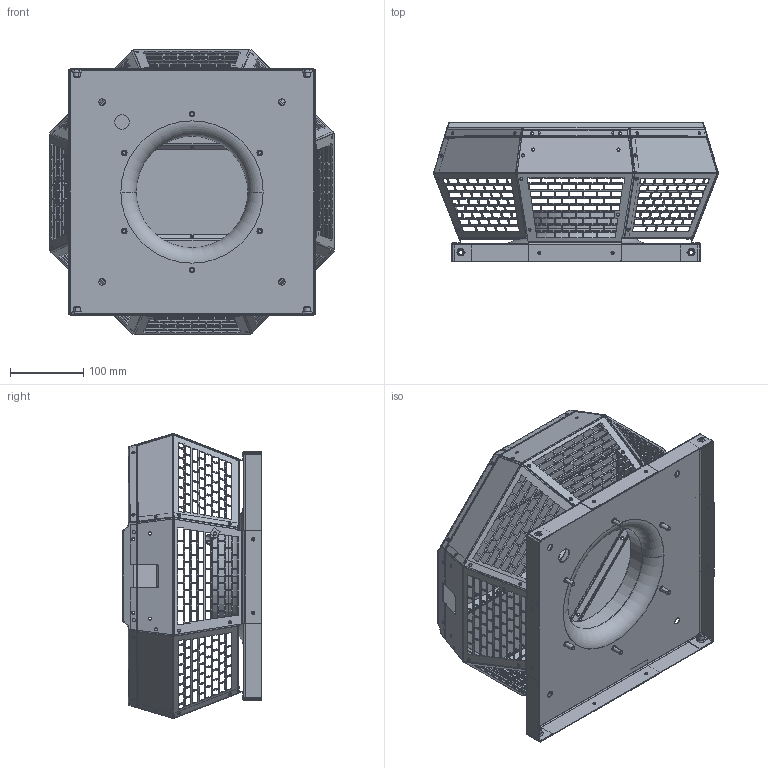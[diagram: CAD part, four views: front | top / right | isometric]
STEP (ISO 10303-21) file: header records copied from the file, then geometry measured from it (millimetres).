
FILE_DESCRIPTION (( 'STEP AP203' ), '1' );
FILE_NAME ('131792-00_DHA220E4P30.STEP', '2015-01-29T07:11:55', ( '' ), ( '' ), 'SwSTEP 2.0', 'SolidWorks 2012', '' );
FILE_SCHEMA (( 'CONFIG_CONTROL_DESIGN' ));
Products named in the file (1): 131792-00_DHA220E4P30
Bounding box: 388.18 x 190.21 x 388.18 mm (x, y, z)
Surface area: 849351.8 mm2 (no closed solid volume)
Topology: 0 solids, 31 shells, 2367 faces, 7909 edges, 5287 vertices
Faces by surface type: plane 1853, cylinder 418, bspline 44, torus 32, cone 20
Entity records: 87179 total; most frequent: CARTESIAN_POINT 17287, ORIENTED_EDGE 13878, DIRECTION 13120, EDGE_CURVE 7909, VECTOR 6720, LINE 6720, VERTEX_POINT 5287, EDGE_LOOP 3512
